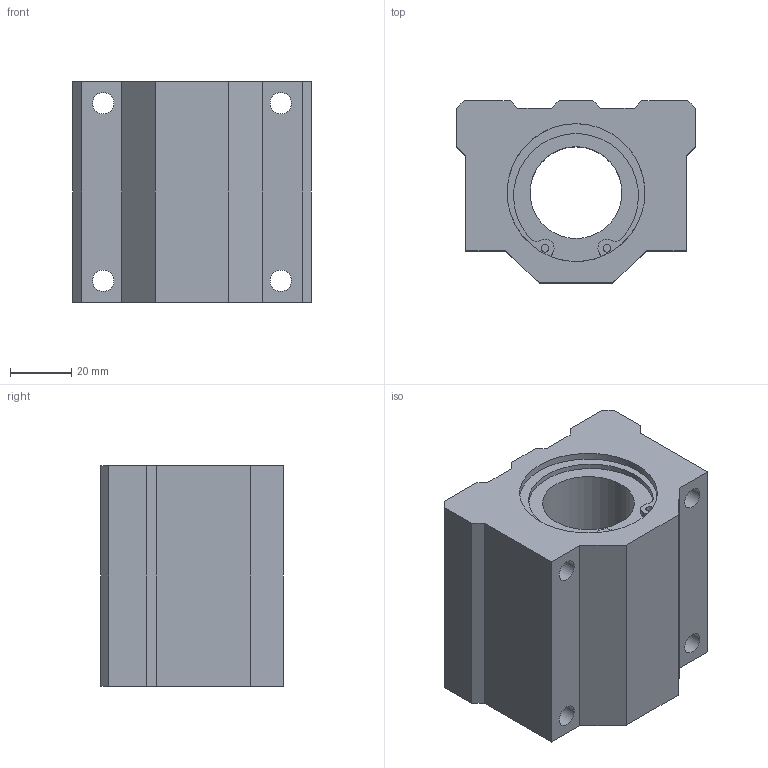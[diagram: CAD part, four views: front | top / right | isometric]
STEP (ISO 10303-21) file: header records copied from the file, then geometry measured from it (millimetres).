
FILE_DESCRIPTION(('STEP AP203'),'1');
FILE_NAME('//192.168.1.1/share/s-4 技術開発/s-4-4_CAD/s-4-4-3_見直し済み/008 修正済み/LC-A/LC-A_TOP/LC-30VAUU.step','2022-05-19T01:35:47',(' '),(' '),'Spatial InterOp 3D',' ',' ');
FILE_SCHEMA(('CONFIG_CONTROL_DESIGN'));
Length unit declared in the file: millimetre
Products named in the file (1): 1
Bounding box: 78 x 59.5 x 72 mm (x, y, z)
Volume: 217822.2 mm3; surface area: 36362.6 mm2
Topology: 1 solids, 1 shells, 65 faces, 171 edges, 114 vertices
Faces by surface type: plane 36, cylinder 29
Full cylindrical faces by diameter (mm): 2.5 x4, 7 x8, 30 x1, 45 x2
Entity records: 1956 total; most frequent: DIRECTION 338, CARTESIAN_POINT 324, ORIENTED_EDGE 300, EDGE_CURVE 150, AXIS2_PLACEMENT_3D 122, VERTEX_POINT 108, EDGE_LOOP 96, LINE 94
